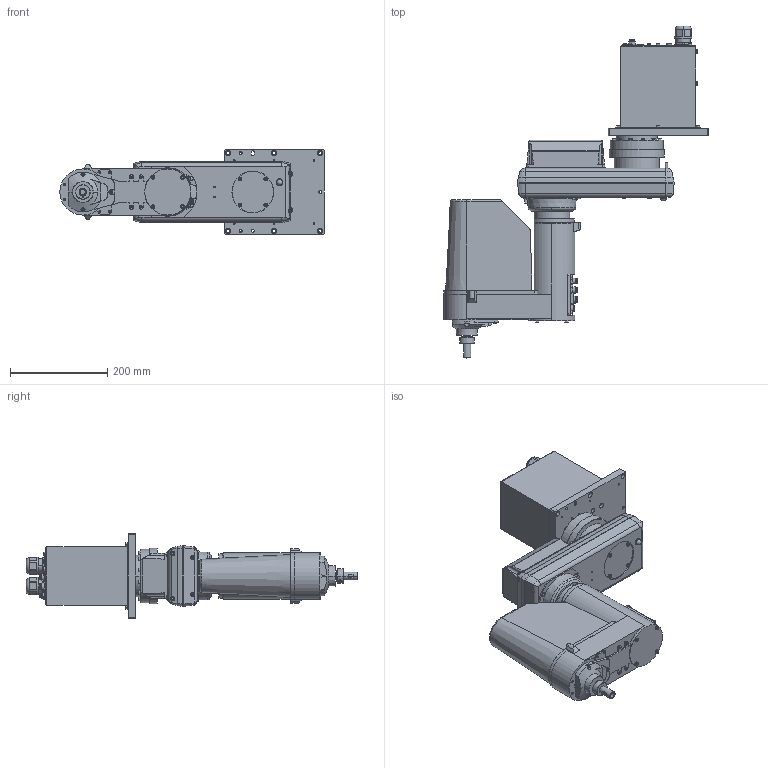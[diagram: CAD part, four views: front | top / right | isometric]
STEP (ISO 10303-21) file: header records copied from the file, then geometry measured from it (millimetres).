
FILE_DESCRIPTION( ( '' ), '1' );
FILE_NAME( '//expscmdclustefs.cadenas.external/client_exchange/iodir/jobs/output/wkb51537020_no0/STEP/RS3_351S_2_14b.stp', '2012-11-23T09:45:17', ( '' ), ( '' ), ' ', ' ', ' ' );
FILE_SCHEMA( ( 'automotive_design' ) );
Length unit declared in the file: millimetre
Products named in the file (4): 1; 2; 3; 4
Bounding box: 544.5 x 684 x 175 mm (x, y, z)
Volume: 12412738.3 mm3; surface area: 661942.6 mm2
Topology: 4 solids, 4 shells, 1901 faces, 4660 edges, 2997 vertices
Faces by surface type: plane 977, cylinder 536, cone 245, torus 142, sphere 1
Entity records: 110211 total; most frequent: CARTESIAN_POINT 10475, DIRECTION 10187, STYLED_ITEM 9530, PRESENTATION_STYLE_ASSIGNMENT 9530, COLOUR_RGB 9530, ORIENTED_EDGE 9256, EDGE_CURVE 4628, CURVE_STYLE 4628
